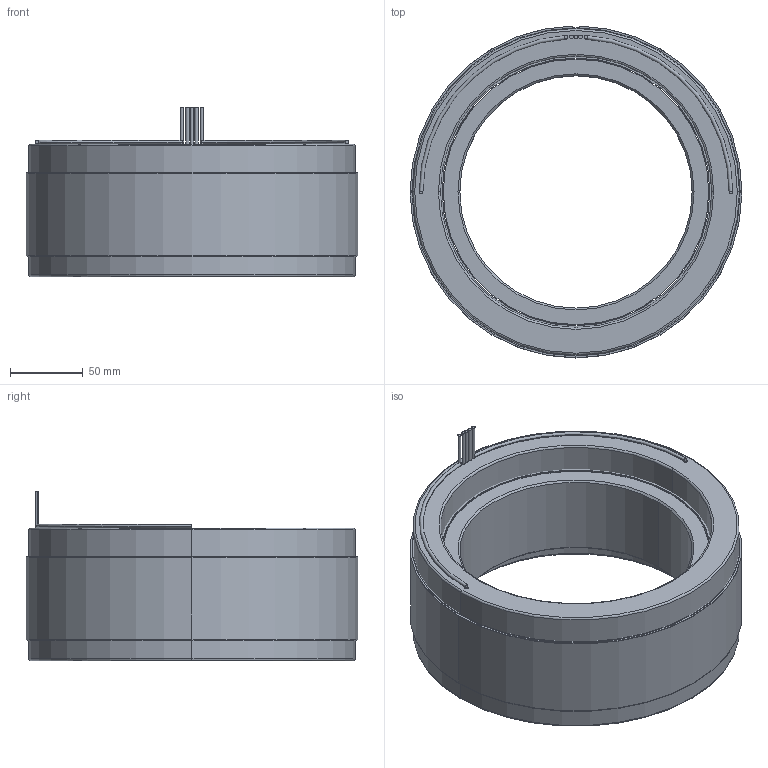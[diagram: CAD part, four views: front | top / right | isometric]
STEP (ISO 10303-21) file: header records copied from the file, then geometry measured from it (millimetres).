
FILE_DESCRIPTION (( 'STEP AP214' ), '1' );
FILE_NAME ('6100346-04.STEP', '2019-10-23T23:35:33', ( '' ), ( '' ), 'SwSTEP 2.0', 'SolidWorks 2016', '' );
FILE_SCHEMA (( 'AUTOMOTIVE_DESIGN' ));
Length unit declared in the file: millimetre
Products named in the file (10): 4500545-XX_4500545-04; 4250365-XX_4250365-04; 4150170-XX_4150170-04; 4400076-00; 4600525-00; 6100346-04; 4450183-XX_4450183-04; COMP4500545-XX(COIL)_COMP4500545-04(COIL)
Assembly tree (10 placements, depth 4):
  6100346-04
    4500545-XX_4500545-04
      COMP4500545-XX(COIL)_COMP4500545-04(COIL)
      4450183-XX_4450183-04
        4450183-XX_4450183-04
        4400076-00
        4400076-00
        4600525-00  x2
    4250365-XX_4250365-04
      4150170-XX_4150170-04
Bounding box: 228.6 x 228.58 x 116.84 mm (x, y, z)
Volume: 2303802.8 mm3; surface area: 433622.6 mm2
Topology: 14 solids, 14 shells, 98 faces, 192 edges, 124 vertices
Faces by surface type: cylinder 52, plane 30, torus 12, cone 4
Entity records: 2875 total; most frequent: DIRECTION 524, CARTESIAN_POINT 404, ORIENTED_EDGE 360, AXIS2_PLACEMENT_3D 236, EDGE_CURVE 180, CIRCLE 128, VERTEX_POINT 116, EDGE_LOOP 106
